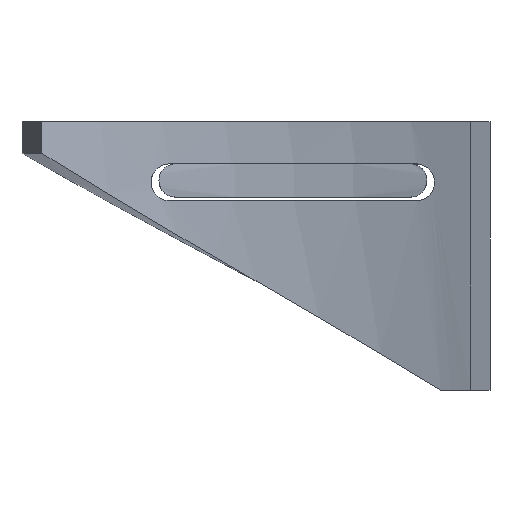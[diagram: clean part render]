
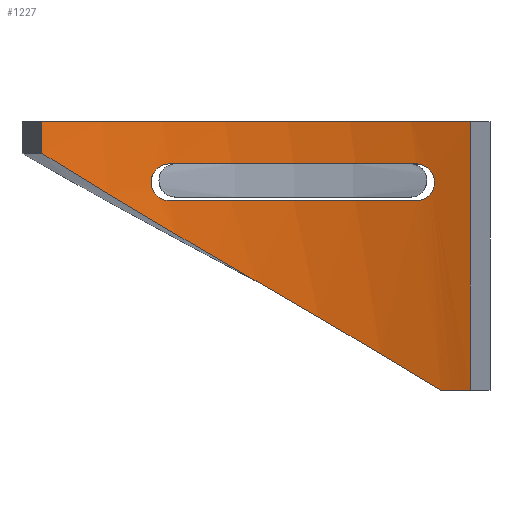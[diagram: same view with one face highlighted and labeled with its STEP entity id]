
A CAD part, top view. The second image highlights one B-rep face of the part: STEP entity #1227.
In plain terms, the highlighted cylindrical face has radius 105.1 mm (diameter 210.2 mm), a partial arc.
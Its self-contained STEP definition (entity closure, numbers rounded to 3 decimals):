
#55=B_SPLINE_CURVE_WITH_KNOTS('',3,(#1972,#1973,#1974,#1975,#1976,#1977,
#1978,#1979,#1980,#1981),.UNSPECIFIED.,.F.,.F.,(4,2,2,2,4),(-0.54,
-0.402,-0.263,-0.132,0.),
 .UNSPECIFIED.);
#56=B_SPLINE_CURVE_WITH_KNOTS('',3,(#1983,#1984,#1985,#1986,#1987,#1988,
#1989,#1990,#1991,#1992),.UNSPECIFIED.,.F.,.F.,(4,2,2,2,4),(1.078,
1.21,1.342,1.48,1.619),
 .UNSPECIFIED.);
#58=B_SPLINE_CURVE_WITH_KNOTS('',3,(#2016,#2017,#2018,#2019,#2020,#2021,
#2022,#2023,#2024,#2025),.UNSPECIFIED.,.F.,.F.,(4,2,2,2,4),(0.53,
0.664,0.798,0.93,1.061),
 .UNSPECIFIED.);
#59=B_SPLINE_CURVE_WITH_KNOTS('',3,(#2026,#2027,#2028,#2029,#2030,#2031,
#2032,#2033,#2034,#2035),.UNSPECIFIED.,.F.,.F.,(4,2,2,2,4),(0.,0.132,
0.264,0.397,0.531),.UNSPECIFIED.);
#61=B_SPLINE_CURVE_WITH_KNOTS('',3,(#2053,#2054,#2055,#2056),
 .UNSPECIFIED.,.F.,.F.,(4,4),(0.,0.397),.UNSPECIFIED.);
#62=B_SPLINE_CURVE_WITH_KNOTS('',3,(#2058,#2059,#2060,#2061),
 .UNSPECIFIED.,.F.,.F.,(4,4),(0.,0.34),.UNSPECIFIED.);
#95=CYLINDRICAL_SURFACE('',#1414,105.1);
#118=FACE_BOUND('',#244,.T.);
#166=FACE_OUTER_BOUND('',#243,.T.);
#243=EDGE_LOOP('',(#923,#924,#925,#926,#927,#928));
#244=EDGE_LOOP('',(#929,#930,#931,#932,#933,#934));
#323=LINE('',#2051,#393);
#324=LINE('',#2064,#394);
#393=VECTOR('',#1623,10.);
#394=VECTOR('',#1626,10.);
#453=CIRCLE('',#1380,105.1);
#470=CIRCLE('',#1408,105.1);
#472=CIRCLE('',#1412,105.1);
#474=CIRCLE('',#1415,105.1);
#527=VERTEX_POINT('',#1889);
#528=VERTEX_POINT('',#1891);
#548=VERTEX_POINT('',#1969);
#549=VERTEX_POINT('',#1971);
#550=VERTEX_POINT('',#1982);
#551=VERTEX_POINT('',#1995);
#555=VERTEX_POINT('',#2013);
#556=VERTEX_POINT('',#2015);
#557=VERTEX_POINT('',#2050);
#558=VERTEX_POINT('',#2052);
#559=VERTEX_POINT('',#2057);
#560=VERTEX_POINT('',#2062);
#653=EDGE_CURVE('',#528,#527,#453,.T.);
#684=EDGE_CURVE('',#548,#549,#55,.T.);
#685=EDGE_CURVE('',#549,#550,#56,.T.);
#688=EDGE_CURVE('',#548,#551,#470,.T.);
#692=EDGE_CURVE('',#555,#556,#58,.T.);
#693=EDGE_CURVE('',#556,#551,#59,.T.);
#695=EDGE_CURVE('',#555,#550,#472,.T.);
#697=EDGE_CURVE('',#527,#557,#323,.T.);
#698=EDGE_CURVE('',#557,#558,#61,.T.);
#699=EDGE_CURVE('',#558,#559,#62,.T.);
#700=EDGE_CURVE('',#559,#560,#474,.T.);
#701=EDGE_CURVE('',#560,#528,#324,.T.);
#923=ORIENTED_EDGE('',*,*,#653,.T.);
#924=ORIENTED_EDGE('',*,*,#697,.T.);
#925=ORIENTED_EDGE('',*,*,#698,.T.);
#926=ORIENTED_EDGE('',*,*,#699,.T.);
#927=ORIENTED_EDGE('',*,*,#700,.T.);
#928=ORIENTED_EDGE('',*,*,#701,.T.);
#929=ORIENTED_EDGE('',*,*,#692,.F.);
#930=ORIENTED_EDGE('',*,*,#695,.T.);
#931=ORIENTED_EDGE('',*,*,#685,.F.);
#932=ORIENTED_EDGE('',*,*,#684,.F.);
#933=ORIENTED_EDGE('',*,*,#688,.T.);
#934=ORIENTED_EDGE('',*,*,#693,.F.);
#1227=ADVANCED_FACE('',(#166,#118),#95,.F.);
#1380=AXIS2_PLACEMENT_3D('',#1892,#1538,#1539);
#1408=AXIS2_PLACEMENT_3D('',#1998,#1608,#1609);
#1412=AXIS2_PLACEMENT_3D('',#2047,#1617,#1618);
#1414=AXIS2_PLACEMENT_3D('',#2049,#1621,#1622);
#1415=AXIS2_PLACEMENT_3D('',#2063,#1624,#1625);
#1538=DIRECTION('center_axis',(0.,1.,0.));
#1539=DIRECTION('ref_axis',(0.,0.,-1.));
#1608=DIRECTION('center_axis',(0.,1.,0.));
#1609=DIRECTION('ref_axis',(0.,0.,-1.));
#1617=DIRECTION('center_axis',(0.,-1.,0.));
#1618=DIRECTION('ref_axis',(0.,0.,-1.));
#1621=DIRECTION('center_axis',(0.,1.,0.));
#1622=DIRECTION('ref_axis',(0.,0.,-1.));
#1623=DIRECTION('',(0.,-1.,0.));
#1624=DIRECTION('center_axis',(0.,-1.,0.));
#1625=DIRECTION('ref_axis',(0.334,0.,-0.943));
#1626=DIRECTION('',(0.,1.,0.));
#1889=CARTESIAN_POINT('',(1.089,0.,8.184));
#1891=CARTESIAN_POINT('',(82.411,0.,8.184));
#1892=CARTESIAN_POINT('Origin',(41.75,0.,105.1));
#1969=CARTESIAN_POINT('',(72.18,-15.,4.502));
#1971=CARTESIAN_POINT('',(75.68,-11.5,5.627));
#1972=CARTESIAN_POINT('Ctrl Pts',(72.18,-15.,4.502));
#1973=CARTESIAN_POINT('Ctrl Pts',(72.623,-15.,4.636));
#1974=CARTESIAN_POINT('Ctrl Pts',(73.095,-14.911,4.782));
#1975=CARTESIAN_POINT('Ctrl Pts',(73.965,-14.547,5.058));
#1976=CARTESIAN_POINT('Ctrl Pts',(74.363,-14.272,5.188));
#1977=CARTESIAN_POINT('Ctrl Pts',(74.978,-13.646,5.39));
#1978=CARTESIAN_POINT('Ctrl Pts',(75.241,-13.258,5.479));
#1979=CARTESIAN_POINT('Ctrl Pts',(75.592,-12.405,5.597));
#1980=CARTESIAN_POINT('Ctrl Pts',(75.68,-11.939,5.627));
#1981=CARTESIAN_POINT('Ctrl Pts',(75.68,-11.5,5.627));
#1982=CARTESIAN_POINT('',(72.18,-8.,4.502));
#1983=CARTESIAN_POINT('Ctrl Pts',(75.68,-11.5,5.627));
#1984=CARTESIAN_POINT('Ctrl Pts',(75.68,-11.061,5.627));
#1985=CARTESIAN_POINT('Ctrl Pts',(75.592,-10.595,5.597));
#1986=CARTESIAN_POINT('Ctrl Pts',(75.241,-9.742,5.479));
#1987=CARTESIAN_POINT('Ctrl Pts',(74.978,-9.354,5.39));
#1988=CARTESIAN_POINT('Ctrl Pts',(74.363,-8.728,5.188));
#1989=CARTESIAN_POINT('Ctrl Pts',(73.965,-8.453,5.058));
#1990=CARTESIAN_POINT('Ctrl Pts',(73.095,-8.089,4.782));
#1991=CARTESIAN_POINT('Ctrl Pts',(72.623,-8.,4.636));
#1992=CARTESIAN_POINT('Ctrl Pts',(72.18,-8.,4.502));
#1995=CARTESIAN_POINT('',(25.308,-15.,1.294));
#1998=CARTESIAN_POINT('Origin',(41.75,-15.,105.1));
#2013=CARTESIAN_POINT('',(25.308,-8.,1.294));
#2015=CARTESIAN_POINT('',(21.808,-11.5,1.909));
#2016=CARTESIAN_POINT('Ctrl Pts',(25.308,-8.,1.294));
#2017=CARTESIAN_POINT('Ctrl Pts',(24.868,-8.,1.364));
#2018=CARTESIAN_POINT('Ctrl Pts',(24.398,-8.088,1.441));
#2019=CARTESIAN_POINT('Ctrl Pts',(23.533,-8.448,1.59));
#2020=CARTESIAN_POINT('Ctrl Pts',(23.138,-8.719,1.661));
#2021=CARTESIAN_POINT('Ctrl Pts',(22.519,-9.342,1.774));
#2022=CARTESIAN_POINT('Ctrl Pts',(22.251,-9.733,1.824));
#2023=CARTESIAN_POINT('Ctrl Pts',(21.896,-10.593,1.892));
#2024=CARTESIAN_POINT('Ctrl Pts',(21.808,-11.061,1.909));
#2025=CARTESIAN_POINT('Ctrl Pts',(21.808,-11.5,1.909));
#2026=CARTESIAN_POINT('Ctrl Pts',(21.808,-11.5,1.909));
#2027=CARTESIAN_POINT('Ctrl Pts',(21.808,-11.939,1.909));
#2028=CARTESIAN_POINT('Ctrl Pts',(21.896,-12.407,1.892));
#2029=CARTESIAN_POINT('Ctrl Pts',(22.251,-13.267,1.824));
#2030=CARTESIAN_POINT('Ctrl Pts',(22.519,-13.658,1.774));
#2031=CARTESIAN_POINT('Ctrl Pts',(23.138,-14.281,1.661));
#2032=CARTESIAN_POINT('Ctrl Pts',(23.533,-14.552,1.59));
#2033=CARTESIAN_POINT('Ctrl Pts',(24.398,-14.912,1.441));
#2034=CARTESIAN_POINT('Ctrl Pts',(24.868,-15.,1.364));
#2035=CARTESIAN_POINT('Ctrl Pts',(25.308,-15.,1.294));
#2047=CARTESIAN_POINT('Origin',(41.75,-8.,105.1));
#2049=CARTESIAN_POINT('Origin',(41.75,-25.5,105.1));
#2050=CARTESIAN_POINT('',(1.089,-6.,8.184));
#2051=CARTESIAN_POINT('',(1.089,0.,8.184));
#2052=CARTESIAN_POINT('',(41.75,-30.242,0.));
#2053=CARTESIAN_POINT('Ctrl Pts',(1.089,-6.,8.184));
#2054=CARTESIAN_POINT('Ctrl Pts',(13.922,-14.081,2.8));
#2055=CARTESIAN_POINT('Ctrl Pts',(27.833,-22.161,0.));
#2056=CARTESIAN_POINT('Ctrl Pts',(41.75,-30.242,0.));
#2057=CARTESIAN_POINT('',(76.815,-51.,6.022));
#2058=CARTESIAN_POINT('Ctrl Pts',(41.75,-30.242,0.));
#2059=CARTESIAN_POINT('Ctrl Pts',(53.667,-37.161,0.));
#2060=CARTESIAN_POINT('Ctrl Pts',(65.581,-44.081,2.046));
#2061=CARTESIAN_POINT('Ctrl Pts',(76.815,-51.,6.022));
#2062=CARTESIAN_POINT('',(82.411,-51.,8.184));
#2063=CARTESIAN_POINT('Origin',(41.75,-51.,105.1));
#2064=CARTESIAN_POINT('',(82.411,-51.,8.184));
